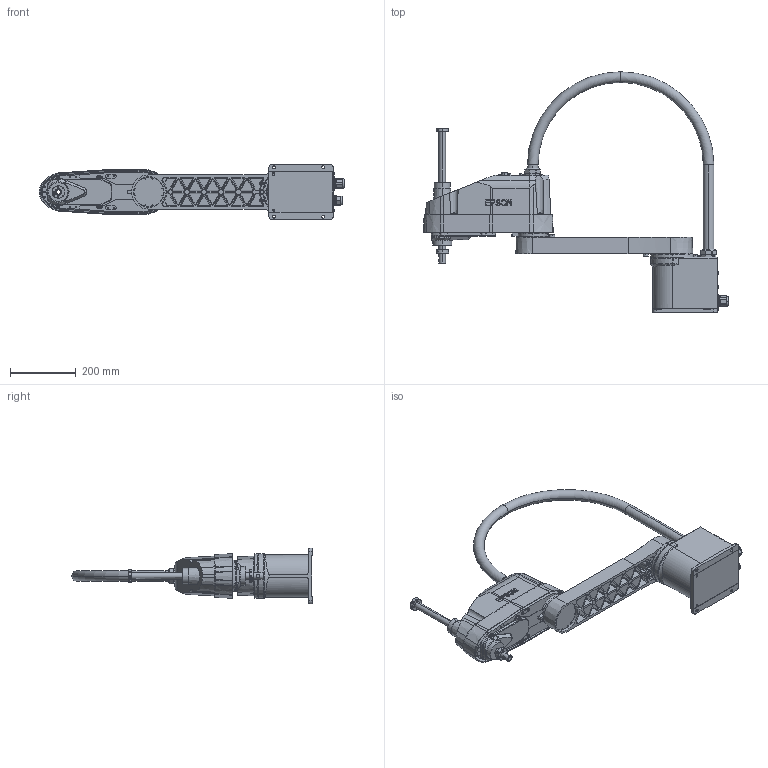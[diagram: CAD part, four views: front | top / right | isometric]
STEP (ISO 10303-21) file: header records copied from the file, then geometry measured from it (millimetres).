
FILE_DESCRIPTION (( 'STEP AP214' ), '1' );
FILE_NAME ('LA6-x702S.STEP', '2026-07-14T23:25:16', ( '' ), ( '' ), 'SwSTEP 2.0', 'SolidWorks 2020', '' );
FILE_SCHEMA (( 'AUTOMOTIVE_DESIGN' ));
Length unit declared in the file: millimetre
Products named in the file (6): LA6-A_J2_ARM_1_2; LA6-x702S; LA6-A702_CONDUIT; LA6-A_BASE_1_2; LA6-A_Z_AXIS_1_2; LA6-A702_J1_ARM
Assembly tree (5 placements, depth 2):
  LA6-x702S
    LA6-A_BASE_1_2
    LA6-A702_J1_ARM
    LA6-A_J2_ARM_1_2
    LA6-A_Z_AXIS_1_2
    LA6-A702_CONDUIT
Bounding box: 927.53 x 730 x 169 mm (x, y, z)
Volume: 13329835.9 mm3; surface area: 1045064.7 mm2
Topology: 5 solids, 5 shells, 2407 faces, 6215 edges, 4018 vertices
Faces by surface type: plane 1345, cone 506, cylinder 458, torus 68, sphere 22, bspline 8
Entity records: 90088 total; most frequent: CARTESIAN_POINT 20911, DIRECTION 12627, ORIENTED_EDGE 12338, EDGE_CURVE 6169, AXIS2_PLACEMENT_3D 4451, VERTEX_POINT 4018, VECTOR 3725, LINE 3725
